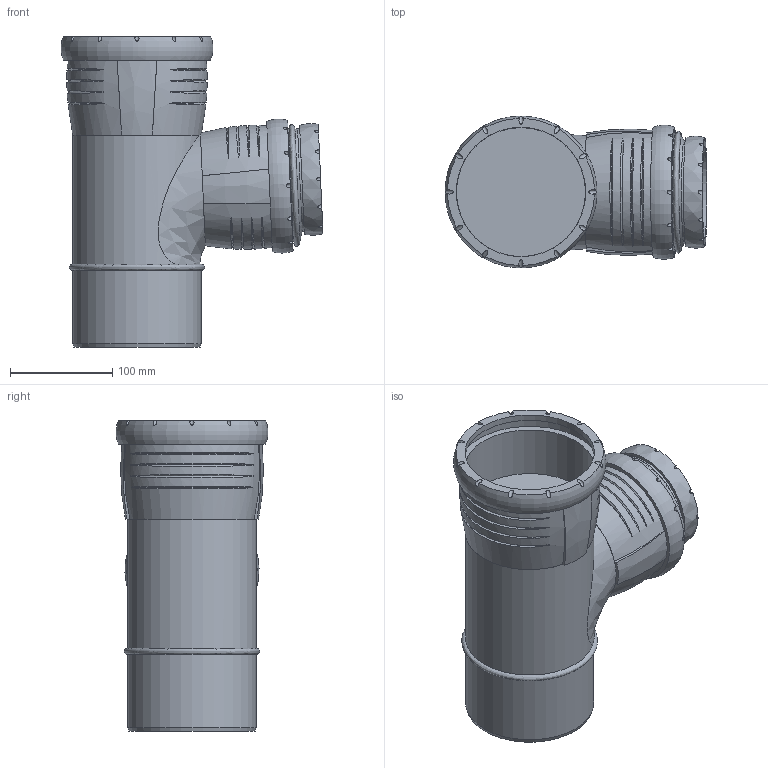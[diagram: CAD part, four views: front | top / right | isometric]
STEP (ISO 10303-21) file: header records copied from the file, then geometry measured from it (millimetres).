
FILE_DESCRIPTION(/* description */ (''),/* implementation_level */ '2;1');
FILE_NAME(/* name */ 'H:\Geberit-Teile\Export\Abzweig PP\stp\393650.stp',/* time_stamp */ '2017-02-13T13:24:06+01:00',/* author */ ('seihe2'),/* organization */ (''),/* preprocessor_version */ 'ST-DEVELOPER v15.2',/* originating_system */ 'Autodesk Inventor 2014',/* authorisation */ '');
FILE_SCHEMA (('AUTOMOTIVE_DESIGN { 1 0 10303 214 3 1 1 }'));
Length unit declared in the file: millimetre
Products named in the file (1): 393650
Bounding box: 255.73 x 148.35 x 303 mm (x, y, z)
Volume: 3137464.6 mm3; surface area: 430009.1 mm2
Topology: 6 solids, 6 shells, 165 faces, 406 edges, 281 vertices
Faces by surface type: cylinder 60, plane 52, bspline 49, cone 2, torus 2
Full cylindrical faces by diameter (mm): 90 x1, 90.9 x1, 91.2 x1, 95.978 x1, 100.2 x1, 100.5 x1, 101.2 x1, 110.2 x1, 111 x1, 111.3 x1, 115.2 x1, 121.5 x1, 125.2 x2, 126 x1, 126.4 x1, 138.1 x1
Entity records: 10107 total; most frequent: CARTESIAN_POINT 6388, ORIENTED_EDGE 756, DIRECTION 644, EDGE_CURVE 377, AXIS2_PLACEMENT_3D 290, VERTEX_POINT 273, EDGE_LOOP 220, STYLED_ITEM 170
